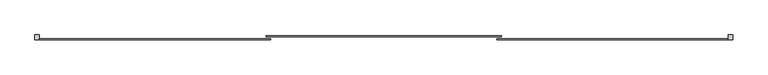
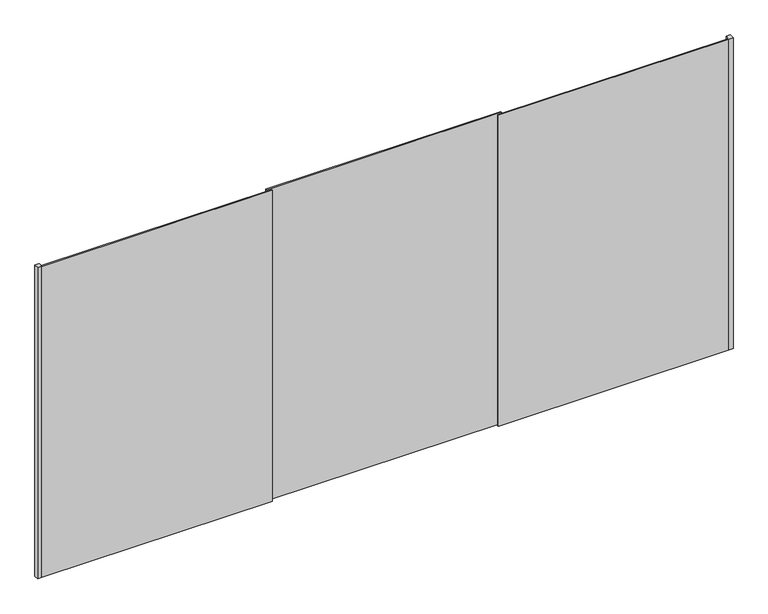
"""IFC4 building model written with IfcOpenShell, lengths in millimetres: furniture geometry, Puerta Closet corre 3 hojas : Puerta corrdiza 3 hojas PCLE-05."""

from ifc_helpers import new_model, si_unit, origin, origin_with_axes, place, context, project, spatial, polyline, outline, extrude, source, transform, mapped, element, save


def furniture_4dd8e650(model_context):
    return source(origin(), model_context, "Body", "SweptSolid", [
        extrude(outline(polyline([(3570.0, 86.6666667), (3540.0, 86.6666667), (3540.0, 120.0), (3570.0, 120.0), (3570.0, 86.6666667)])), origin_with_axes(), (0.0, 0.0, 1.0), 2300.0),
        extrude(outline(polyline([(3540.0, 86.6666667), (1930.0, 86.6666667), (1930.0, 93.3333333), (3540.0, 93.3333333), (3540.0, 86.6666667)])), origin_with_axes(), (0.0, 0.0, 1.0), 2300.0),
        extrude(outline(polyline([(1960.0, 106.6666667), (320.0, 106.6666667), (320.0, 113.3333333), (1960.0, 113.3333333), (1960.0, 106.6666667)])), origin_with_axes(), (0.0, 0.0, 1.0), 2300.0),
        extrude(outline(polyline([(350.0, 86.6666667), (-1260.0, 86.6666667), (-1260.0, 93.3333333), (350.0, 93.3333333), (350.0, 86.6666667)])), origin_with_axes(), (0.0, 0.0, 1.0), 2300.0),
        extrude(outline(polyline([(-1290.0, 86.6666667), (-1290.0, 120.0), (-1260.0, 120.0), (-1260.0, 86.6666667), (-1290.0, 86.6666667)])), origin_with_axes(), (0.0, 0.0, 1.0), 2300.0),
    ])


if __name__ == "__main__":
    model = new_model("IFC4")
    model_context = context("Model", 3, world=origin())
    ifc_project = project(units=[si_unit("LENGTHUNIT", "METRE", prefix="MILLI")], contexts=[model_context])
    site = spatial("IfcSite", under=ifc_project)
    building = spatial("IfcBuilding", under=site)
    placement = place(None, origin())
    furniture_shape = furniture_4dd8e650(model_context)
    element("IfcFurniture", 1, ObjectType="Puerta Closet corre 3 hojas : Puerta corrdiza 3 hojas PCLE-05", at=placement, inside=building, context=model_context, shape_type="MappedRepresentation", body=[
        mapped(furniture_shape, transform((0.0, 0.0, 0.0), x_axis=(1.0, 0.0, 0.0), y_axis=(0.0, 1.0, 0.0), z_axis=(0.0, 0.0, 1.0))),
    ])
    save(model, "model.ifc")
